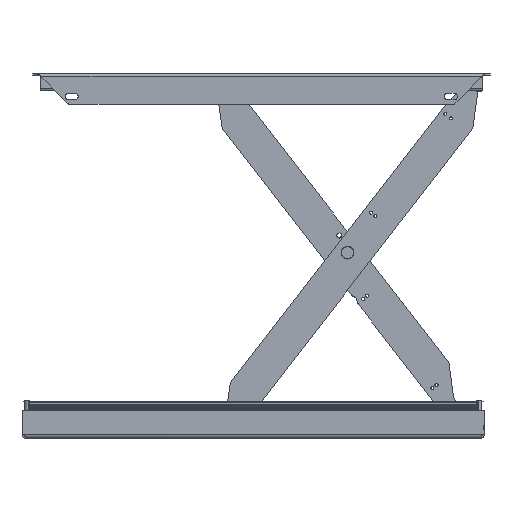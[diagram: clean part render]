
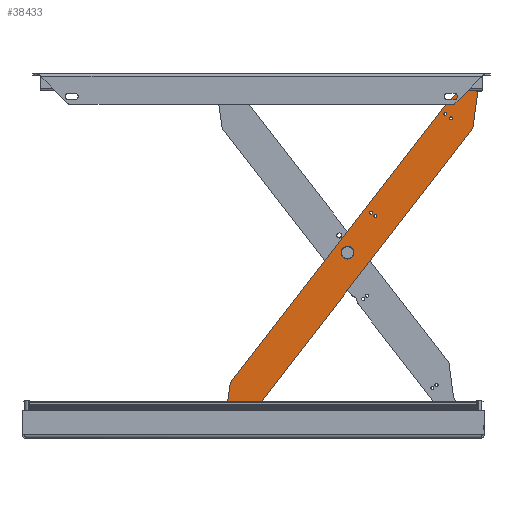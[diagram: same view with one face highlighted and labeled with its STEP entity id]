
A CAD part, front view. The second image highlights one B-rep face of the part: STEP entity #38433.
In plain terms, the highlighted planar face has unit normal (0, -1, 0) as drawn and (0, 0, -1) by its records, which use the part's own axes.
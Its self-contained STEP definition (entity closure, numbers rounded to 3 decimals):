
#1764=FACE_BOUND('',#6139,.T.);
#1765=FACE_BOUND('',#6140,.T.);
#1766=FACE_BOUND('',#6141,.T.);
#1767=FACE_BOUND('',#6142,.T.);
#1768=FACE_BOUND('',#6143,.T.);
#1769=FACE_BOUND('',#6144,.T.);
#2389=PLANE('',#40990);
#3839=FACE_OUTER_BOUND('',#6138,.T.);
#6138=EDGE_LOOP('',(#28913,#28914,#28915,#28916,#28917,#28918,#28919,#28920));
#6139=EDGE_LOOP('',(#28921));
#6140=EDGE_LOOP('',(#28922));
#6141=EDGE_LOOP('',(#28923));
#6142=EDGE_LOOP('',(#28924));
#6143=EDGE_LOOP('',(#28925));
#6144=EDGE_LOOP('',(#28926));
#8966=LINE('',#58123,#12627);
#8971=LINE('',#58136,#12632);
#8974=LINE('',#58142,#12635);
#8977=LINE('',#58148,#12638);
#8981=LINE('',#58160,#12642);
#8983=LINE('',#58163,#12644);
#12627=VECTOR('',#46240,88.544);
#12632=VECTOR('',#46253,750.);
#12635=VECTOR('',#46258,80.623);
#12638=VECTOR('',#46263,3.9);
#12642=VECTOR('',#46275,61.725);
#12644=VECTOR('',#46279,680.);
#15634=CIRCLE('',#40962,2.75);
#15636=CIRCLE('',#40965,2.75);
#15638=CIRCLE('',#40968,3.);
#15640=CIRCLE('',#40971,3.);
#15642=CIRCLE('',#40974,12.575);
#15644=CIRCLE('',#40977,7.1);
#15646=CIRCLE('',#40981,14.);
#15648=CIRCLE('',#40987,12.1);
#17547=VERTEX_POINT('',#58089);
#17549=VERTEX_POINT('',#58094);
#17551=VERTEX_POINT('',#58099);
#17553=VERTEX_POINT('',#58104);
#17555=VERTEX_POINT('',#58109);
#17557=VERTEX_POINT('',#58114);
#17560=VERTEX_POINT('',#58120);
#17561=VERTEX_POINT('',#58122);
#17563=VERTEX_POINT('',#58128);
#17565=VERTEX_POINT('',#58134);
#17567=VERTEX_POINT('',#58140);
#17569=VERTEX_POINT('',#58146);
#17571=VERTEX_POINT('',#58152);
#17573=VERTEX_POINT('',#58158);
#21821=EDGE_CURVE('',#17547,#17547,#15634,.T.);
#21823=EDGE_CURVE('',#17549,#17549,#15636,.T.);
#21825=EDGE_CURVE('',#17551,#17551,#15638,.T.);
#21827=EDGE_CURVE('',#17553,#17553,#15640,.T.);
#21829=EDGE_CURVE('',#17555,#17555,#15642,.T.);
#21831=EDGE_CURVE('',#17557,#17557,#15644,.T.);
#21834=EDGE_CURVE('',#17560,#17561,#8966,.T.);
#21838=EDGE_CURVE('',#17563,#17560,#15646,.T.);
#21841=EDGE_CURVE('',#17565,#17563,#8971,.T.);
#21844=EDGE_CURVE('',#17567,#17565,#8974,.T.);
#21847=EDGE_CURVE('',#17569,#17567,#8977,.T.);
#21850=EDGE_CURVE('',#17571,#17569,#15648,.T.);
#21853=EDGE_CURVE('',#17573,#17571,#8981,.T.);
#21855=EDGE_CURVE('',#17561,#17573,#8983,.T.);
#28913=ORIENTED_EDGE('',*,*,#21855,.F.);
#28914=ORIENTED_EDGE('',*,*,#21834,.F.);
#28915=ORIENTED_EDGE('',*,*,#21838,.F.);
#28916=ORIENTED_EDGE('',*,*,#21841,.F.);
#28917=ORIENTED_EDGE('',*,*,#21844,.F.);
#28918=ORIENTED_EDGE('',*,*,#21847,.F.);
#28919=ORIENTED_EDGE('',*,*,#21850,.F.);
#28920=ORIENTED_EDGE('',*,*,#21853,.F.);
#28921=ORIENTED_EDGE('',*,*,#21821,.T.);
#28922=ORIENTED_EDGE('',*,*,#21823,.T.);
#28923=ORIENTED_EDGE('',*,*,#21825,.T.);
#28924=ORIENTED_EDGE('',*,*,#21827,.T.);
#28925=ORIENTED_EDGE('',*,*,#21829,.T.);
#28926=ORIENTED_EDGE('',*,*,#21831,.T.);
#38433=ADVANCED_FACE('',(#3839,#1764,#1765,#1766,#1767,#1768,#1769),#2389,
 .F.);
#40962=AXIS2_PLACEMENT_3D('',#58090,#46204,#46205);
#40965=AXIS2_PLACEMENT_3D('',#58095,#46210,#46211);
#40968=AXIS2_PLACEMENT_3D('',#58100,#46216,#46217);
#40971=AXIS2_PLACEMENT_3D('',#58105,#46222,#46223);
#40974=AXIS2_PLACEMENT_3D('',#58110,#46228,#46229);
#40977=AXIS2_PLACEMENT_3D('',#58115,#46234,#46235);
#40981=AXIS2_PLACEMENT_3D('',#58130,#46247,#46248);
#40987=AXIS2_PLACEMENT_3D('',#58154,#46269,#46270);
#40990=AXIS2_PLACEMENT_3D('',#58164,#46280,#46281);
#46204=DIRECTION('center_axis',(0.,0.,1.));
#46205=DIRECTION('ref_axis',(1.,0.,0.));
#46210=DIRECTION('center_axis',(0.,0.,1.));
#46211=DIRECTION('ref_axis',(1.,0.,0.));
#46216=DIRECTION('center_axis',(0.,0.,1.));
#46217=DIRECTION('ref_axis',(1.,0.,0.));
#46222=DIRECTION('center_axis',(0.,0.,1.));
#46223=DIRECTION('ref_axis',(1.,0.,0.));
#46228=DIRECTION('center_axis',(0.,0.,1.));
#46229=DIRECTION('ref_axis',(-1.,0.,0.));
#46234=DIRECTION('center_axis',(0.,0.,1.));
#46235=DIRECTION('ref_axis',(-1.,0.,0.));
#46240=DIRECTION('',(-0.495,-0.869,0.));
#46247=DIRECTION('center_axis',(0.,0.,1.));
#46248=DIRECTION('ref_axis',(1.,0.,0.));
#46253=DIRECTION('',(0.,1.,0.));
#46258=DIRECTION('',(0.496,0.868,0.));
#46263=DIRECTION('',(1.,0.,0.));
#46269=DIRECTION('center_axis',(0.,0.,-1.));
#46270=DIRECTION('ref_axis',(-1.,0.,0.));
#46275=DIRECTION('',(0.087,-0.996,0.));
#46279=DIRECTION('',(0.,-1.,0.));
#46280=DIRECTION('center_axis',(0.,0.,1.));
#46281=DIRECTION('ref_axis',(1.,0.,0.));
#58089=CARTESIAN_POINT('',(26.75,80.,0.));
#58090=CARTESIAN_POINT('Origin',(24.,80.,0.));
#58094=CARTESIAN_POINT('',(12.75,80.,0.));
#58095=CARTESIAN_POINT('Origin',(10.,80.,0.));
#58099=CARTESIAN_POINT('',(27.,320.,0.));
#58100=CARTESIAN_POINT('Origin',(24.,320.,0.));
#58104=CARTESIAN_POINT('',(17.,320.,0.));
#58105=CARTESIAN_POINT('Origin',(14.,320.,0.));
#58109=CARTESIAN_POINT('',(37.575,410.,0.));
#58110=CARTESIAN_POINT('Origin',(25.,410.,0.));
#58114=CARTESIAN_POINT('',(63.1,820.,0.));
#58115=CARTESIAN_POINT('Origin',(56.,820.,0.));
#58120=CARTESIAN_POINT('',(43.836,826.931,0.));
#58122=CARTESIAN_POINT('',(0.,750.,0.));
#58123=CARTESIAN_POINT('',(43.836,826.931,0.));
#58128=CARTESIAN_POINT('',(70.,820.,0.));
#58130=CARTESIAN_POINT('Origin',(56.,820.,0.));
#58134=CARTESIAN_POINT('',(70.,70.,0.));
#58136=CARTESIAN_POINT('',(70.,70.,0.));
#58140=CARTESIAN_POINT('',(30.,0.,0.));
#58142=CARTESIAN_POINT('',(30.,0.,0.));
#58146=CARTESIAN_POINT('',(26.1,0.,0.));
#58148=CARTESIAN_POINT('',(26.1,0.,0.));
#58152=CARTESIAN_POINT('',(5.4,8.512,0.));
#58154=CARTESIAN_POINT('Origin',(14.,0.,0.));
#58158=CARTESIAN_POINT('',(0.,70.,0.));
#58160=CARTESIAN_POINT('',(0.,70.,0.));
#58163=CARTESIAN_POINT('',(0.,750.,0.));
#58164=CARTESIAN_POINT('Origin',(35.486,415.185,0.));
